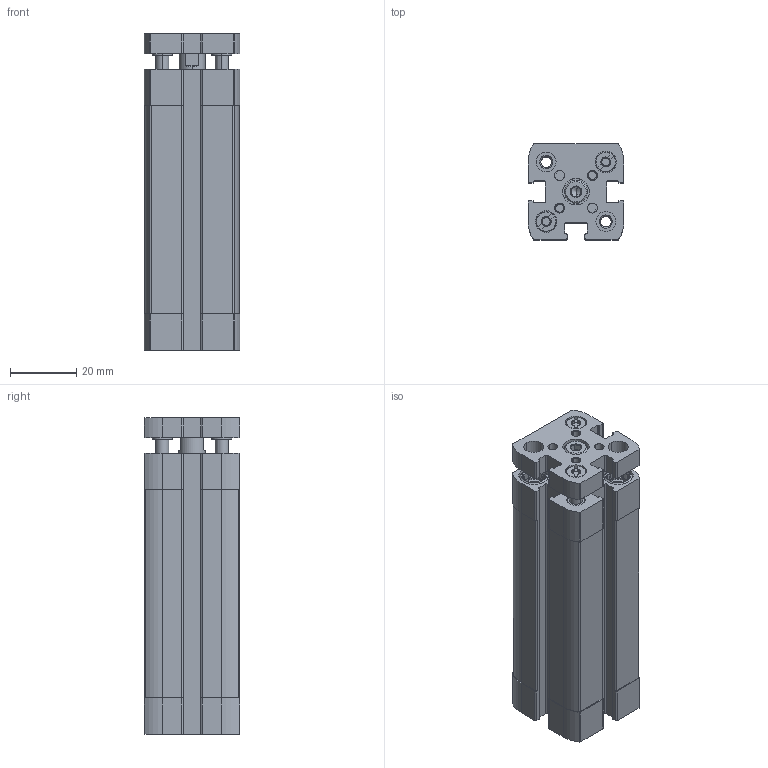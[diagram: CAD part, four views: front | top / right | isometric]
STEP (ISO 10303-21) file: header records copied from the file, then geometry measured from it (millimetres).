
FILE_DESCRIPTION (( 'STEP AP203' ), '1' );
FILE_NAME ('CCNG16-50.STEP', '2017-04-13T14:45:02', ( '' ), ( '' ), 'SwSTEP 2.0', 'SolidWorks 2016', '' );
FILE_SCHEMA (( 'CONFIG_CONTROL_DESIGN' ));
Length unit declared in the file: millimetre
Products named in the file (3): CCNG-16-50---(KS); CCNG16-50; CCNG-16-50--(Z)
Assembly tree (2 placements, depth 2):
  CCNG16-50
    CCNG-16-50--(Z)
    CCNG-16-50---(KS)
Bounding box: 29 x 29 x 95.7 mm (x, y, z)
Volume: 53923.4 mm3; surface area: 30219.3 mm2
Topology: 2 solids, 6 shells, 545 faces, 1414 edges, 921 vertices
Faces by surface type: plane 257, cylinder 214, cone 70, bspline 4
Entity records: 17273 total; most frequent: CARTESIAN_POINT 3359, DIRECTION 2902, ORIENTED_EDGE 2824, EDGE_CURVE 1412, AXIS2_PLACEMENT_3D 1076, VERTEX_POINT 921, LINE 750, VECTOR 750
